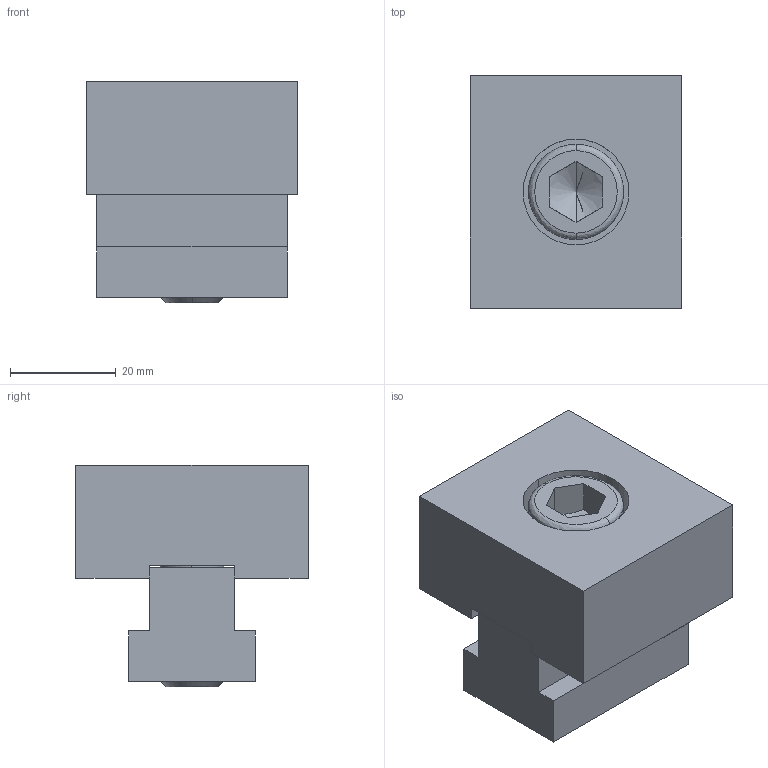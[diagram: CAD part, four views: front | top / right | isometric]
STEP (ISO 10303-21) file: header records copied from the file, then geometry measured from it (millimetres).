
FILE_DESCRIPTION (( 'STEP AP203' ), '1' );
FILE_NAME ('mr-s-f.STEP', '2021-10-26T02:18:04', ( '' ), ( '' ), 'SwSTEP 2.0', 'SolidWorks 2020', '' );
FILE_SCHEMA (( 'CONFIG_CONTROL_DESIGN' ));
Length unit declared in the file: millimetre
Products named in the file (1): mr-s-f
Bounding box: 40 x 44 x 42 mm (x, y, z)
Volume: 50068.5 mm3; surface area: 12503.6 mm2
Topology: 1 solids, 1 shells, 43 faces, 112 edges, 71 vertices
Faces by surface type: plane 29, cylinder 8, cone 4, bspline 2
Entity records: 1439 total; most frequent: CARTESIAN_POINT 315, ORIENTED_EDGE 220, DIRECTION 208, EDGE_CURVE 110, VECTOR 80, LINE 80, VERTEX_POINT 71, AXIS2_PLACEMENT_3D 64
